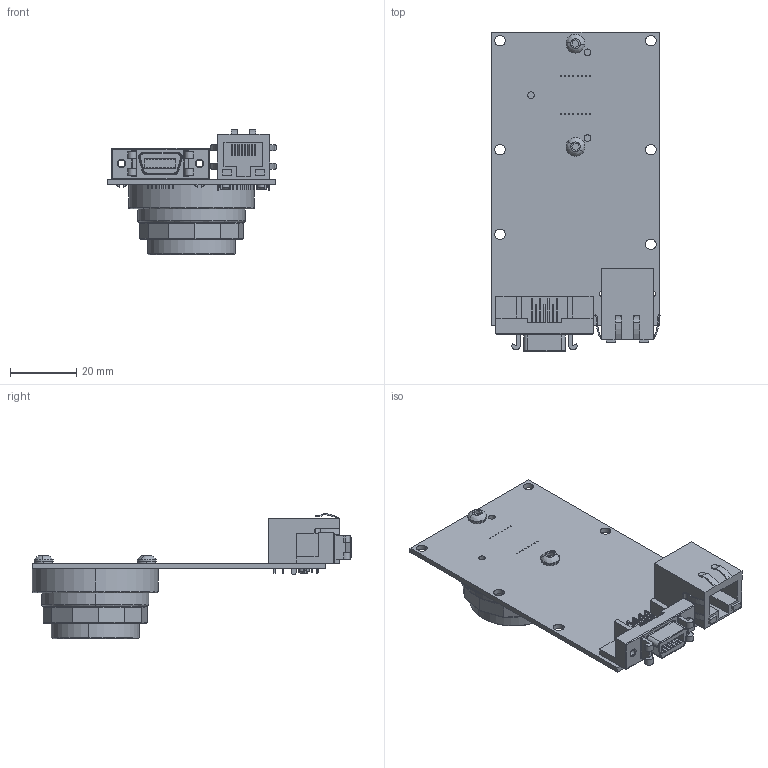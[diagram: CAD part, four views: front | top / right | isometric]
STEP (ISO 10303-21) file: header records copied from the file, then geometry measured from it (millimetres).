
FILE_DESCRIPTION (( 'STEP AP214' ), '1' );
FILE_NAME ('GB650.STEP', '2013-07-31T22:30:10', ( '' ), ( '' ), 'SwSTEP 2.0', 'SolidWorks 2013', '' );
FILE_SCHEMA (( 'AUTOMOTIVE_DESIGN' ));
Length unit declared in the file: millimetre
Products named in the file (15): 110094A-GB CCD GASKET; 140027-SCREW BUTTON M3x6 SS; 200081B-GB1380-650-LS-RA; 260039-3M 10214-55G3PC; 260036-HALO HFJ11-1G16E-L12RL; 200080B-GB1380-650-LS; 210046B-GB1380-650-LS; 140008-washer spring lock #4; 110003AC-CV CMOUNT RING; 110078A-GB MOUNT; 220073-SONY ICX424AL; SONY ICX424 BODY; SONY ICX424 WINDOW; 110031A-B EC-CCD LOCKING RING; GB650
Assembly tree (16 placements, depth 4):
  GB650
    110031A-B EC-CCD LOCKING RING
    220073-SONY ICX424AL
      SONY ICX424 WINDOW
      SONY ICX424 BODY
    110078A-GB MOUNT
    110003AC-CV CMOUNT RING
    140008-washer spring lock #4  x2
    200081B-GB1380-650-LS-RA
      200080B-GB1380-650-LS
        210046B-GB1380-650-LS
      260036-HALO HFJ11-1G16E-L12RL
      260039-3M 10214-55G3PC
    140027-SCREW BUTTON M3x6 SS  x2
    110094A-GB CCD GASKET
Bounding box: 51.12 x 96.77 x 37.97 mm (x, y, z)
Volume: 18900.7 mm3; surface area: 26501.6 mm2
Topology: 13 solids, 13 shells, 1335 faces, 3484 edges, 2229 vertices
Faces by surface type: plane 820, cylinder 339, cone 150, bspline 26
Entity records: 55874 total; most frequent: CARTESIAN_POINT 7991, ORIENTED_EDGE 6848, DIRECTION 6775, EDGE_CURVE 3424, VECTOR 2557, LINE 2557, VERTEX_POINT 2193, AXIS2_PLACEMENT_3D 2109
